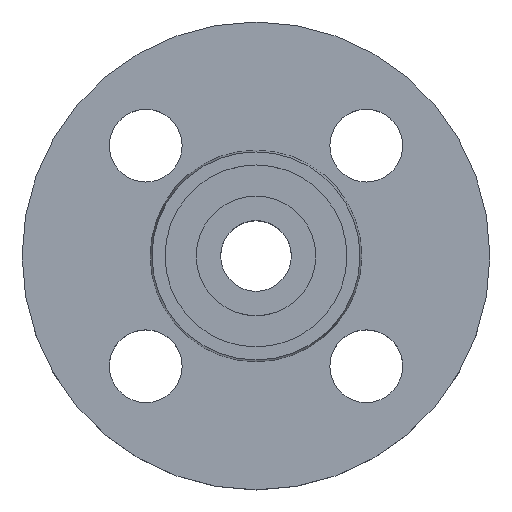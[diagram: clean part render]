
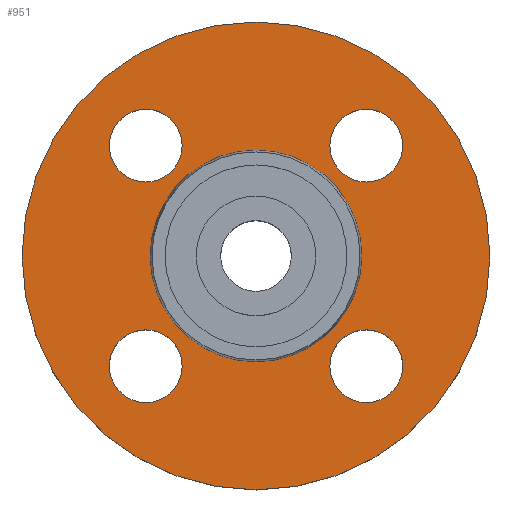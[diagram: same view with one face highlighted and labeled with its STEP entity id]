
A CAD part, top view. The second image highlights one B-rep face of the part: STEP entity #951.
In plain terms, the highlighted planar face has unit normal (0, 0, 1).
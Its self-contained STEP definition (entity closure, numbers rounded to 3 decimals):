
#2 = EDGE_CURVE ( 'NONE', #711, #703, #557, .T. ) ;
#8 = CIRCLE ( 'NONE', #463, 7. ) ;
#16 = DIRECTION ( 'NONE',  ( 1., 0., 0. ) ) ;
#17 = CIRCLE ( 'NONE', #210, 7. ) ;
#19 = DIRECTION ( 'NONE',  ( 0., 0., -1. ) ) ;
#21 = AXIS2_PLACEMENT_3D ( 'NONE', #319, #311, #332 ) ;
#23 = CARTESIAN_POINT ( 'NONE',  ( 21.213, 21.213, -2. ) ) ;
#34 = DIRECTION ( 'NONE',  ( 1., 0., 0. ) ) ;
#35 = DIRECTION ( 'NONE',  ( 0., 0., -1. ) ) ;
#37 = CARTESIAN_POINT ( 'NONE',  ( 21.213, -21.213, -2. ) ) ;
#47 = AXIS2_PLACEMENT_3D ( 'NONE', #37, #35, #34 ) ;
#64 = EDGE_CURVE ( 'NONE', #703, #711, #608, .T. ) ;
#73 = DIRECTION ( 'NONE',  ( -1., 0., 0. ) ) ;
#88 = CARTESIAN_POINT ( 'NONE',  ( -20.353, 0., -2. ) ) ;
#116 = EDGE_CURVE ( 'NONE', #657, #741, #262, .T. ) ;
#123 = CARTESIAN_POINT ( 'NONE',  ( -14.213, -21.213, -2. ) ) ;
#133 = CARTESIAN_POINT ( 'NONE',  ( -28.213, -21.213, -2. ) ) ;
#141 = CARTESIAN_POINT ( 'NONE',  ( 28.213, 21.213, -2. ) ) ;
#149 = CARTESIAN_POINT ( 'NONE',  ( -28.213, 21.213, -2. ) ) ;
#168 = AXIS2_PLACEMENT_3D ( 'NONE', #268, #267, #264 ) ;
#170 = CARTESIAN_POINT ( 'NONE',  ( -14.213, 21.213, -2. ) ) ;
#172 = CARTESIAN_POINT ( 'NONE',  ( 14.213, 21.213, -2. ) ) ;
#174 = CARTESIAN_POINT ( 'NONE',  ( -45., 0., -2. ) ) ;
#178 = CARTESIAN_POINT ( 'NONE',  ( 20.353, 0., -2. ) ) ;
#179 = CIRCLE ( 'NONE', #227, 7. ) ;
#210 = AXIS2_PLACEMENT_3D ( 'NONE', #807, #631, #606 ) ;
#222 = CIRCLE ( 'NONE', #605, 45. ) ;
#224 = DIRECTION ( 'NONE',  ( -1., 0., 0. ) ) ;
#225 = DIRECTION ( 'NONE',  ( 0., 0., -1. ) ) ;
#227 = AXIS2_PLACEMENT_3D ( 'NONE', #275, #284, #282 ) ;
#228 = CARTESIAN_POINT ( 'NONE',  ( 0., 0., -2. ) ) ;
#240 = CIRCLE ( 'NONE', #168, 45. ) ;
#242 = CIRCLE ( 'NONE', #21, 7. ) ;
#257 = FACE_BOUND ( 'NONE', #946, .T. ) ;
#262 = CIRCLE ( 'NONE', #560, 20.353 ) ;
#264 = DIRECTION ( 'NONE',  ( -1., 0., 0. ) ) ;
#267 = DIRECTION ( 'NONE',  ( 0., 0., -1. ) ) ;
#268 = CARTESIAN_POINT ( 'NONE',  ( 0., 0., -2. ) ) ;
#275 = CARTESIAN_POINT ( 'NONE',  ( 21.213, 21.213, -2. ) ) ;
#276 = CIRCLE ( 'NONE', #517, 20.353 ) ;
#282 = DIRECTION ( 'NONE',  ( 1., 0., 0. ) ) ;
#284 = DIRECTION ( 'NONE',  ( 0., 0., -1. ) ) ;
#293 = CARTESIAN_POINT ( 'NONE',  ( 28.213, -21.213, -2. ) ) ;
#308 = CARTESIAN_POINT ( 'NONE',  ( 45., 0., -2. ) ) ;
#311 = DIRECTION ( 'NONE',  ( 0., 0., -1. ) ) ;
#319 = CARTESIAN_POINT ( 'NONE',  ( 21.213, -21.213, -2. ) ) ;
#332 = DIRECTION ( 'NONE',  ( 1., 0., 0. ) ) ;
#370 = CARTESIAN_POINT ( 'NONE',  ( 0., 0., -2. ) ) ;
#377 = DIRECTION ( 'NONE',  ( 1., 0., 0. ) ) ;
#395 = CARTESIAN_POINT ( 'NONE',  ( -21.213, -21.213, -2. ) ) ;
#397 = DIRECTION ( 'NONE',  ( 0., 0., -1. ) ) ;
#398 = DIRECTION ( 'NONE',  ( 1., 0., 0. ) ) ;
#404 = DIRECTION ( 'NONE',  ( 0., 0., -1. ) ) ;
#438 = CARTESIAN_POINT ( 'NONE',  ( 0., 0., -2. ) ) ;
#439 = DIRECTION ( 'NONE',  ( 0., 0., -1. ) ) ;
#440 = DIRECTION ( 'NONE',  ( -1., 0., 0. ) ) ;
#463 = AXIS2_PLACEMENT_3D ( 'NONE', #23, #19, #16 ) ;
#479 = DIRECTION ( 'NONE',  ( 0., 0., 1. ) ) ;
#517 = AXIS2_PLACEMENT_3D ( 'NONE', #370, #404, #73 ) ;
#537 = EDGE_CURVE ( 'NONE', #970, #979, #242, .T. ) ;
#541 = AXIS2_PLACEMENT_3D ( 'NONE', #822, #800, #780 ) ;
#556 = AXIS2_PLACEMENT_3D ( 'NONE', #981, #982, #983 ) ;
#557 = CIRCLE ( 'NONE', #556, 7. ) ;
#560 = AXIS2_PLACEMENT_3D ( 'NONE', #438, #439, #440 ) ;
#562 = AXIS2_PLACEMENT_3D ( 'NONE', #612, #479, #377 ) ;
#588 = FACE_BOUND ( 'NONE', #684, .T. ) ;
#592 = EDGE_CURVE ( 'NONE', #741, #657, #276, .T. ) ;
#594 = AXIS2_PLACEMENT_3D ( 'NONE', #395, #397, #398 ) ;
#597 = FACE_BOUND ( 'NONE', #960, .T. ) ;
#605 = AXIS2_PLACEMENT_3D ( 'NONE', #228, #225, #224 ) ;
#606 = DIRECTION ( 'NONE',  ( 1., 0., 0. ) ) ;
#607 = EDGE_CURVE ( 'NONE', #667, #696, #179, .T. ) ;
#608 = CIRCLE ( 'NONE', #594, 7. ) ;
#609 = PLANE ( 'NONE',  #562 ) ;
#612 = CARTESIAN_POINT ( 'NONE',  ( 20.353, 0., -2. ) ) ;
#617 = EDGE_CURVE ( 'NONE', #663, #838, #240, .T. ) ;
#631 = DIRECTION ( 'NONE',  ( 0., 0., -1. ) ) ;
#637 = EDGE_CURVE ( 'NONE', #838, #663, #222, .T. ) ;
#656 = CARTESIAN_POINT ( 'NONE',  ( 14.213, -21.213, -2. ) ) ;
#657 = VERTEX_POINT ( 'NONE', #178 ) ;
#659 = EDGE_LOOP ( 'NONE', ( #826, #827 ) ) ;
#663 = VERTEX_POINT ( 'NONE', #174 ) ;
#667 = VERTEX_POINT ( 'NONE', #172 ) ;
#673 = VERTEX_POINT ( 'NONE', #170 ) ;
#684 = EDGE_LOOP ( 'NONE', ( #815, #816 ) ) ;
#688 = VERTEX_POINT ( 'NONE', #149 ) ;
#696 = VERTEX_POINT ( 'NONE', #141 ) ;
#698 = CIRCLE ( 'NONE', #541, 7. ) ;
#703 = VERTEX_POINT ( 'NONE', #133 ) ;
#710 = FACE_BOUND ( 'NONE', #659, .T. ) ;
#711 = VERTEX_POINT ( 'NONE', #123 ) ;
#741 = VERTEX_POINT ( 'NONE', #88 ) ;
#756 = EDGE_LOOP ( 'NONE', ( #828, #831 ) ) ;
#768 = FACE_OUTER_BOUND ( 'NONE', #756, .T. ) ;
#780 = DIRECTION ( 'NONE',  ( 1., 0., 0. ) ) ;
#783 = EDGE_CURVE ( 'NONE', #979, #970, #932, .T. ) ;
#790 = EDGE_CURVE ( 'NONE', #696, #667, #8, .T. ) ;
#800 = DIRECTION ( 'NONE',  ( 0., 0., -1. ) ) ;
#807 = CARTESIAN_POINT ( 'NONE',  ( -21.213, 21.213, -2. ) ) ;
#815 = ORIENTED_EDGE ( 'NONE', *, *, #537, .T. ) ;
#816 = ORIENTED_EDGE ( 'NONE', *, *, #783, .T. ) ;
#817 = ORIENTED_EDGE ( 'NONE', *, *, #2, .T. ) ;
#818 = ORIENTED_EDGE ( 'NONE', *, *, #64, .T. ) ;
#821 = ORIENTED_EDGE ( 'NONE', *, *, #829, .T. ) ;
#822 = CARTESIAN_POINT ( 'NONE',  ( -21.213, 21.213, -2. ) ) ;
#823 = ORIENTED_EDGE ( 'NONE', *, *, #861, .T. ) ;
#824 = ORIENTED_EDGE ( 'NONE', *, *, #790, .T. ) ;
#825 = ORIENTED_EDGE ( 'NONE', *, *, #607, .T. ) ;
#826 = ORIENTED_EDGE ( 'NONE', *, *, #592, .T. ) ;
#827 = ORIENTED_EDGE ( 'NONE', *, *, #116, .T. ) ;
#828 = ORIENTED_EDGE ( 'NONE', *, *, #637, .F. ) ;
#829 = EDGE_CURVE ( 'NONE', #673, #688, #17, .T. ) ;
#831 = ORIENTED_EDGE ( 'NONE', *, *, #617, .F. ) ;
#838 = VERTEX_POINT ( 'NONE', #308 ) ;
#861 = EDGE_CURVE ( 'NONE', #688, #673, #698, .T. ) ;
#887 = EDGE_LOOP ( 'NONE', ( #824, #825 ) ) ;
#932 = CIRCLE ( 'NONE', #47, 7. ) ;
#946 = EDGE_LOOP ( 'NONE', ( #817, #818 ) ) ;
#951 = ADVANCED_FACE ( 'NONE', ( #588, #257, #597, #961, #710, #768 ), #609, .T. ) ;
#960 = EDGE_LOOP ( 'NONE', ( #821, #823 ) ) ;
#961 = FACE_BOUND ( 'NONE', #887, .T. ) ;
#970 = VERTEX_POINT ( 'NONE', #293 ) ;
#979 = VERTEX_POINT ( 'NONE', #656 ) ;
#981 = CARTESIAN_POINT ( 'NONE',  ( -21.213, -21.213, -2. ) ) ;
#982 = DIRECTION ( 'NONE',  ( 0., 0., -1. ) ) ;
#983 = DIRECTION ( 'NONE',  ( 1., 0., 0. ) ) ;
